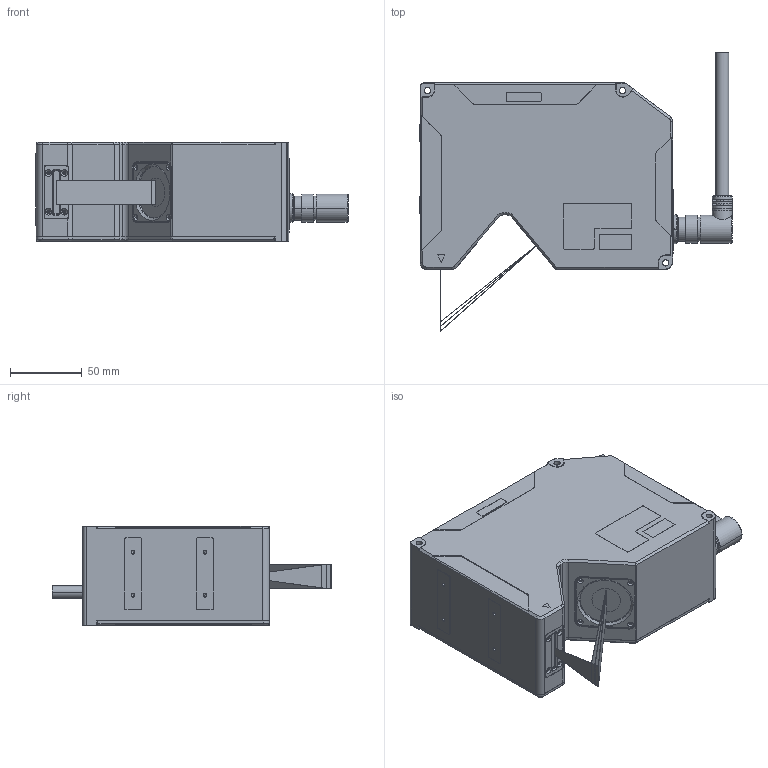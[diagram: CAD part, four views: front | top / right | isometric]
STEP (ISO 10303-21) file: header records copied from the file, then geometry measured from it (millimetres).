
FILE_DESCRIPTION (( 'STEP AP214' ), '1' );
FILE_NAME ('SR9040笢俶假蚾尨砩芞.STEP', '2022-12-08T10:15:14', ( '' ), ( '' ), 'SwSTEP 2.0', 'SolidWorks 2020', '' );
FILE_SCHEMA (( 'AUTOMOTIVE_DESIGN' ));
Length unit declared in the file: millimetre
Products named in the file (1): SR9040笢俶假蚾尨砩芞
Bounding box: 218.1 x 194.56 x 69.5 mm (x, y, z)
Surface area: 222678.5 mm2 (no closed solid volume)
Topology: 0 solids, 669 shells, 3021 faces, 10032 edges, 7769 vertices
Faces by surface type: plane 1880, cylinder 679, cone 280, bspline 173, torus 9
Entity records: 164925 total; most frequent: CARTESIAN_POINT 45583, DIRECTION 16976, ORIENTED_EDGE 15557, EDGE_CURVE 9897, VERTEX_POINT 7769, LINE 5730, VECTOR 5730, AXIS2_PLACEMENT_3D 5623
